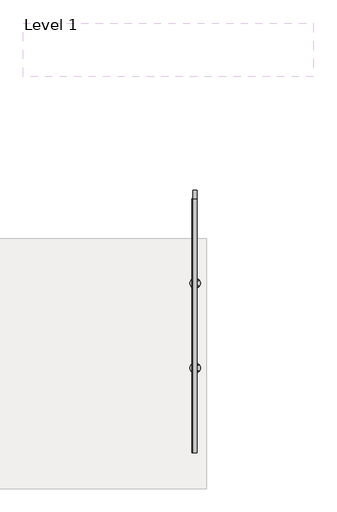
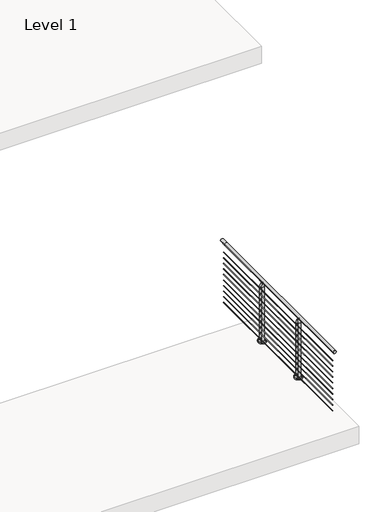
# One storey, part 8 of 26: 1 railing.
"""IFC4 building model written with IfcOpenShell, lengths in millimetres."""

from ifc_helpers import new_model, si_unit, point, frame, frame_2d, origin, origin_with_axes, place, context, project, spatial, polyline, circle_curve, trimmed, segment, composite_curve, outline, extrude, faceted_brep, element, save
from ifc_brep_helpers import plane_surface, cylinder_surface, advanced_brep

model = new_model("IFC4")

# Units and contexts
model_context = context("Model", 3, world=origin())
ifc_project = project(units=[si_unit("LENGTHUNIT", "METRE", prefix="MILLI")], contexts=[model_context])

# Site, building, storey
site = spatial("IfcSite", under=ifc_project)
building = spatial("IfcBuilding", under=site)
storey = spatial("IfcBuildingStorey", under=building, Name="Level 1", Elevation=0.0)

# Railing
placement = place(None, origin())
element("IfcRailing", 1, ObjectType="VIVA-CUBE-Multiline-Cable-Core Mount-Straight", at=placement, inside=storey, context=model_context, shape_type="SolidModel", body=[
    advanced_brep(
    [(69909.4592968, -70203.1943064, 1054.1), (69858.6592968, -70203.1943064, 1054.1), (69858.6592968, -70304.7943064, 1054.1), (69909.4592968, -70304.7943064, 1054.1), (69909.4592968, -73352.7943064, 1054.1), (69858.6592968, -73352.7943064, 1054.1)],
    [
        (0, 1, circle_curve(frame((69884.0592968, -70203.1943064, 1054.1), z_axis=(0.0, 1.0, 0.0), x_axis=(-1.0, 0.0, 0.0)), 25.4)),
        (1, 0, circle_curve(frame((69884.0592968, -70203.1943064, 1054.1), z_axis=(0.0, 1.0, 0.0), x_axis=(-1.0, 0.0, 0.0)), 25.4)),
        (2, 3, circle_curve(frame((69884.0592968, -70304.7943064, 1054.1), z_axis=(0.0, 1.0, 0.0), x_axis=(-1.0, 0.0, 0.0)), 25.4)),
        (3, 0),
        (1, 2),
        (3, 2, circle_curve(frame((69884.0592968, -70304.7943064, 1054.1), z_axis=(0.0, 1.0, 0.0), x_axis=(-1.0, 0.0, 0.0)), 25.4)),
        (4, 5, circle_curve(frame((69884.0592968, -73352.7943064, 1054.1), z_axis=(0.0, -1.0, 0.0), x_axis=(-1.0, 0.0, 0.0)), 25.4)),
        (5, 4, circle_curve(frame((69884.0592968, -73352.7943064, 1054.1), z_axis=(0.0, -1.0, 0.0), x_axis=(-1.0, 0.0, 0.0)), 25.4)),
        (4, 3),
        (2, 5),
    ],
    [
        plane_surface(frame((69884.0592968, -70203.1943064, 1079.5), z_axis=(0.0, 1.0, 0.0), x_axis=(0.0, 0.0, 1.0))),
        cylinder_surface(frame((69884.0592968, -70304.7943064, 1054.1), z_axis=(0.0, -1.0, 0.0), x_axis=(-1.0, 0.0, 0.0)), 25.4),
        plane_surface(frame((69884.0592968, -73352.7943064, 1079.5), z_axis=(0.0, -1.0, 0.0), x_axis=(0.0, 0.0, 1.0))),
        cylinder_surface(frame((69884.0592968, -73352.7943064, 1054.1), z_axis=(0.0, -1.0, 0.0), x_axis=(-1.0, 0.0, 0.0)), 25.4),
    ],
    [
        (0, [[1, 2]]),
        (1, [[3, 4, -2, 5]]),
        (1, [[6, -5, -1, -4]]),
        (2, [[7, 8]]),
        (3, [[-7, 9, -3, 10]]),
        (3, [[-8, -10, -6, -9]]),
    ],
),
    extrude(outline(composite_curve([segment(trimmed(circle_curve(frame_2d((922.1724, 69851.0392968)), 2.3876), [point((922.1724, 69848.6516968))], [point((922.1724, 69853.4268968))], False, "CARTESIAN"), True, "CONTINUOUS"), segment(trimmed(circle_curve(frame_2d((922.1724, 69851.0392968)), 2.3876), [point((922.1724, 69853.4268968))], [point((922.1724, 69848.6516968))], False, "CARTESIAN"), True, "CONTINUOUS")], self_intersect=False)), frame((0.0, -73352.7943064, 0.0), z_axis=(0.0, 1.0, 0.0), x_axis=(0.0, 0.0, 1.0)), (0.0, 0.0, 1.0), 3048.0),
    extrude(outline(composite_curve([segment(trimmed(circle_curve(frame_2d((824.3824, 69851.0392968)), 2.3876), [point((824.3824, 69848.6516968))], [point((824.3824, 69853.4268968))], False, "CARTESIAN"), True, "CONTINUOUS"), segment(trimmed(circle_curve(frame_2d((824.3824, 69851.0392968)), 2.3876), [point((824.3824, 69853.4268968))], [point((824.3824, 69848.6516968))], False, "CARTESIAN"), True, "CONTINUOUS")], self_intersect=False)), frame((0.0, -73352.7943064, 0.0), z_axis=(0.0, 1.0, 0.0), x_axis=(0.0, 0.0, 1.0)), (0.0, 0.0, 1.0), 3048.0),
    extrude(outline(composite_curve([segment(trimmed(circle_curve(frame_2d((729.1324, 69851.0392968)), 2.3876), [point((729.1324, 69848.6516968))], [point((729.1324, 69853.4268968))], False, "CARTESIAN"), True, "CONTINUOUS"), segment(trimmed(circle_curve(frame_2d((729.1324, 69851.0392968)), 2.3876), [point((729.1324, 69853.4268968))], [point((729.1324, 69848.6516968))], False, "CARTESIAN"), True, "CONTINUOUS")], self_intersect=False)), frame((0.0, -73352.7943064, 0.0), z_axis=(0.0, 1.0, 0.0), x_axis=(0.0, 0.0, 1.0)), (0.0, 0.0, 1.0), 3048.0),
    extrude(outline(composite_curve([segment(trimmed(circle_curve(frame_2d((636.4224, 69851.0392968)), 2.3876), [point((636.4224, 69848.6516968))], [point((636.4224, 69853.4268968))], False, "CARTESIAN"), True, "CONTINUOUS"), segment(trimmed(circle_curve(frame_2d((636.4224, 69851.0392968)), 2.3876), [point((636.4224, 69853.4268968))], [point((636.4224, 69848.6516968))], False, "CARTESIAN"), True, "CONTINUOUS")], self_intersect=False)), frame((0.0, -73352.7943064, 0.0), z_axis=(0.0, 1.0, 0.0), x_axis=(0.0, 0.0, 1.0)), (0.0, 0.0, 1.0), 3048.0),
    extrude(outline(composite_curve([segment(trimmed(circle_curve(frame_2d((539.9024, 69851.0392968)), 2.3876), [point((539.9024, 69848.6516968))], [point((539.9024, 69853.4268968))], False, "CARTESIAN"), True, "CONTINUOUS"), segment(trimmed(circle_curve(frame_2d((539.9024, 69851.0392968)), 2.3876), [point((539.9024, 69853.4268968))], [point((539.9024, 69848.6516968))], False, "CARTESIAN"), True, "CONTINUOUS")], self_intersect=False)), frame((0.0, -73352.7943064, 0.0), z_axis=(0.0, 1.0, 0.0), x_axis=(0.0, 0.0, 1.0)), (0.0, 0.0, 1.0), 3048.0),
    extrude(outline(composite_curve([segment(trimmed(circle_curve(frame_2d((442.1124, 69851.0392968)), 2.3876), [point((442.1124, 69848.6516968))], [point((442.1124, 69853.4268968))], False, "CARTESIAN"), True, "CONTINUOUS"), segment(trimmed(circle_curve(frame_2d((442.1124, 69851.0392968)), 2.3876), [point((442.1124, 69853.4268968))], [point((442.1124, 69848.6516968))], False, "CARTESIAN"), True, "CONTINUOUS")], self_intersect=False)), frame((0.0, -73352.7943064, 0.0), z_axis=(0.0, 1.0, 0.0), x_axis=(0.0, 0.0, 1.0)), (0.0, 0.0, 1.0), 3048.0),
    extrude(outline(composite_curve([segment(trimmed(circle_curve(frame_2d((349.4024, 69851.0392968)), 2.3876), [point((349.4024, 69848.6516968))], [point((349.4024, 69853.4268968))], False, "CARTESIAN"), True, "CONTINUOUS"), segment(trimmed(circle_curve(frame_2d((349.4024, 69851.0392968)), 2.3876), [point((349.4024, 69853.4268968))], [point((349.4024, 69848.6516968))], False, "CARTESIAN"), True, "CONTINUOUS")], self_intersect=False)), frame((0.0, -73352.7943064, 0.0), z_axis=(0.0, 1.0, 0.0), x_axis=(0.0, 0.0, 1.0)), (0.0, 0.0, 1.0), 3048.0),
    extrude(outline(composite_curve([segment(trimmed(circle_curve(frame_2d((254.1524, 69851.0392968)), 2.3876), [point((254.1524, 69848.6516968))], [point((254.1524, 69853.4268968))], False, "CARTESIAN"), True, "CONTINUOUS"), segment(trimmed(circle_curve(frame_2d((254.1524, 69851.0392968)), 2.3876), [point((254.1524, 69853.4268968))], [point((254.1524, 69848.6516968))], False, "CARTESIAN"), True, "CONTINUOUS")], self_intersect=False)), frame((0.0, -73352.7943064, 0.0), z_axis=(0.0, 1.0, 0.0), x_axis=(0.0, 0.0, 1.0)), (0.0, 0.0, 1.0), 3048.0),
    extrude(outline(composite_curve([segment(trimmed(circle_curve(frame_2d((158.9024, 69851.0392968)), 2.3876), [point((158.9024, 69848.6516968))], [point((158.9024, 69853.4268968))], False, "CARTESIAN"), True, "CONTINUOUS"), segment(trimmed(circle_curve(frame_2d((158.9024, 69851.0392968)), 2.3876), [point((158.9024, 69853.4268968))], [point((158.9024, 69848.6516968))], False, "CARTESIAN"), True, "CONTINUOUS")], self_intersect=False)), frame((0.0, -73352.7943064, 0.0), z_axis=(0.0, 1.0, 0.0), x_axis=(0.0, 0.0, 1.0)), (0.0, 0.0, 1.0), 3048.0),
    extrude(outline(composite_curve([segment(trimmed(circle_curve(frame_2d((63.6524, 69851.0392968)), 2.3876), [point((63.6524, 69848.6516968))], [point((63.6524, 69853.4268968))], False, "CARTESIAN"), True, "CONTINUOUS"), segment(trimmed(circle_curve(frame_2d((63.6524, 69851.0392968)), 2.3876), [point((63.6524, 69853.4268968))], [point((63.6524, 69848.6516968))], False, "CARTESIAN"), True, "CONTINUOUS")], self_intersect=False)), frame((0.0, -73352.7943064, 0.0), z_axis=(0.0, 1.0, 0.0), x_axis=(0.0, 0.0, 1.0)), (0.0, 0.0, 1.0), 3048.0),
    advanced_brep(
    [(69853.3161225, -71307.3340985, 63.5), (69853.3161225, -71332.6670144, 63.5), (69853.3161225, -71320.0005564, 63.5), (69858.6501225, -71307.3340985, 63.5), (69858.6501225, -71332.6670144, 63.5), (69858.6501225, -71320.0005564, 63.5)],
    [
        (0, 1, circle_curve(frame((69853.3161225, -71320.0005564, 63.5), z_axis=(-1.0, 0.0, 0.0), x_axis=(0.0, -1.0, 0.0)), 12.666458)),
        (1, 2),
        (2, 0),
        (1, 0, circle_curve(frame((69853.3161225, -71320.0005564, 63.5), z_axis=(-1.0, 0.0, 0.0), x_axis=(0.0, -1.0, 0.0)), 12.666458)),
        (3, 4, circle_curve(frame((69858.6501225, -71320.0005564, 63.5), z_axis=(-1.0, 0.0, 0.0), x_axis=(0.0, -1.0, 0.0)), 12.666458)),
        (4, 1),
        (0, 3),
        (4, 3, circle_curve(frame((69858.6501225, -71320.0005564, 63.5), z_axis=(-1.0, 0.0, 0.0), x_axis=(0.0, -1.0, 0.0)), 12.666458)),
        (5, 4),
        (3, 5),
    ],
    [
        plane_surface(frame((69853.3161225, -71320.0005564, 63.5), z_axis=(-1.0, 0.0, 0.0), x_axis=(0.0, -1.0, 0.0))),
        cylinder_surface(frame((69985.6592968, -71320.0005564, 63.5), z_axis=(1.0, 0.0, 0.0), x_axis=(0.0, -1.0, 0.0)), 12.666458),
        plane_surface(frame((69858.6501225, -71320.0005564, 63.5), z_axis=(1.0, 0.0, 0.0), x_axis=(0.0, -1.0, 0.0))),
    ],
    [
        (0, [[1, 2, 3]]),
        (0, [[4, -3, -2]]),
        (1, [[5, 6, -1, 7]]),
        (1, [[8, -7, -4, -6]]),
        (2, [[9, -5, 10]]),
        (2, [[-10, -8, -9]]),
    ],
),
    advanced_brep(
    [(69853.3161225, -71307.3340985, 158.75), (69853.3161225, -71332.6670144, 158.75), (69853.3161225, -71320.0005564, 158.75), (69858.6501225, -71307.3340985, 158.75), (69858.6501225, -71332.6670144, 158.75), (69858.6501225, -71320.0005564, 158.75)],
    [
        (0, 1, circle_curve(frame((69853.3161225, -71320.0005564, 158.75), z_axis=(-1.0, 0.0, 0.0), x_axis=(0.0, -1.0, 0.0)), 12.666458)),
        (1, 2),
        (2, 0),
        (1, 0, circle_curve(frame((69853.3161225, -71320.0005564, 158.75), z_axis=(-1.0, 0.0, 0.0), x_axis=(0.0, -1.0, 0.0)), 12.666458)),
        (3, 4, circle_curve(frame((69858.6501225, -71320.0005564, 158.75), z_axis=(-1.0, 0.0, 0.0), x_axis=(0.0, -1.0, 0.0)), 12.666458)),
        (4, 1),
        (0, 3),
        (4, 3, circle_curve(frame((69858.6501225, -71320.0005564, 158.75), z_axis=(-1.0, 0.0, 0.0), x_axis=(0.0, -1.0, 0.0)), 12.666458)),
        (5, 4),
        (3, 5),
    ],
    [
        plane_surface(frame((69853.3161225, -71320.0005564, 158.75), z_axis=(-1.0, 0.0, 0.0), x_axis=(0.0, -1.0, 0.0))),
        cylinder_surface(frame((69985.6592968, -71320.0005564, 158.75), z_axis=(1.0, 0.0, 0.0), x_axis=(0.0, -1.0, 0.0)), 12.666458),
        plane_surface(frame((69858.6501225, -71320.0005564, 158.75), z_axis=(1.0, 0.0, 0.0), x_axis=(0.0, -1.0, 0.0))),
    ],
    [
        (0, [[1, 2, 3]]),
        (0, [[4, -3, -2]]),
        (1, [[5, 6, -1, 7]]),
        (1, [[8, -7, -4, -6]]),
        (2, [[9, -5, 10]]),
        (2, [[-10, -8, -9]]),
    ],
),
    advanced_brep(
    [(69853.3161225, -71307.3340985, 254.0), (69853.3161225, -71332.6670144, 254.0), (69853.3161225, -71320.0005564, 254.0), (69858.6501225, -71307.3340985, 254.0), (69858.6501225, -71332.6670144, 254.0), (69858.6501225, -71320.0005564, 254.0)],
    [
        (0, 1, circle_curve(frame((69853.3161225, -71320.0005564, 254.0), z_axis=(-1.0, 0.0, 0.0), x_axis=(0.0, -1.0, 0.0)), 12.666458)),
        (1, 2),
        (2, 0),
        (1, 0, circle_curve(frame((69853.3161225, -71320.0005564, 254.0), z_axis=(-1.0, 0.0, 0.0), x_axis=(0.0, -1.0, 0.0)), 12.666458)),
        (3, 4, circle_curve(frame((69858.6501225, -71320.0005564, 254.0), z_axis=(-1.0, 0.0, 0.0), x_axis=(0.0, -1.0, 0.0)), 12.666458)),
        (4, 1),
        (0, 3),
        (4, 3, circle_curve(frame((69858.6501225, -71320.0005564, 254.0), z_axis=(-1.0, 0.0, 0.0), x_axis=(0.0, -1.0, 0.0)), 12.666458)),
        (5, 4),
        (3, 5),
    ],
    [
        plane_surface(frame((69853.3161225, -71320.0005564, 254.0), z_axis=(-1.0, 0.0, 0.0), x_axis=(0.0, -1.0, 0.0))),
        cylinder_surface(frame((69985.6592968, -71320.0005564, 254.0), z_axis=(1.0, 0.0, 0.0), x_axis=(0.0, -1.0, 0.0)), 12.666458),
        plane_surface(frame((69858.6501225, -71320.0005564, 254.0), z_axis=(1.0, 0.0, 0.0), x_axis=(0.0, -1.0, 0.0))),
    ],
    [
        (0, [[1, 2, 3]]),
        (0, [[4, -3, -2]]),
        (1, [[5, 6, -1, 7]]),
        (1, [[8, -7, -4, -6]]),
        (2, [[9, -5, 10]]),
        (2, [[-10, -8, -9]]),
    ],
),
    advanced_brep(
    [(69853.3161225, -71307.3340985, 349.25), (69853.3161225, -71332.6670144, 349.25), (69853.3161225, -71320.0005564, 349.25), (69858.6501225, -71307.3340985, 349.25), (69858.6501225, -71332.6670144, 349.25), (69858.6501225, -71320.0005564, 349.25)],
    [
        (0, 1, circle_curve(frame((69853.3161225, -71320.0005564, 349.25), z_axis=(-1.0, 0.0, 0.0), x_axis=(0.0, -1.0, 0.0)), 12.666458)),
        (1, 2),
        (2, 0),
        (1, 0, circle_curve(frame((69853.3161225, -71320.0005564, 349.25), z_axis=(-1.0, 0.0, 0.0), x_axis=(0.0, -1.0, 0.0)), 12.666458)),
        (3, 4, circle_curve(frame((69858.6501225, -71320.0005564, 349.25), z_axis=(-1.0, 0.0, 0.0), x_axis=(0.0, -1.0, 0.0)), 12.666458)),
        (4, 1),
        (0, 3),
        (4, 3, circle_curve(frame((69858.6501225, -71320.0005564, 349.25), z_axis=(-1.0, 0.0, 0.0), x_axis=(0.0, -1.0, 0.0)), 12.666458)),
        (5, 4),
        (3, 5),
    ],
    [
        plane_surface(frame((69853.3161225, -71320.0005564, 349.25), z_axis=(-1.0, 0.0, 0.0), x_axis=(0.0, -1.0, 0.0))),
        cylinder_surface(frame((69985.6592968, -71320.0005564, 349.25), z_axis=(1.0, 0.0, 0.0), x_axis=(0.0, -1.0, 0.0)), 12.666458),
        plane_surface(frame((69858.6501225, -71320.0005564, 349.25), z_axis=(1.0, 0.0, 0.0), x_axis=(0.0, -1.0, 0.0))),
    ],
    [
        (0, [[1, 2, 3]]),
        (0, [[4, -3, -2]]),
        (1, [[5, 6, -1, 7]]),
        (1, [[8, -7, -4, -6]]),
        (2, [[9, -5, 10]]),
        (2, [[-10, -8, -9]]),
    ],
),
    advanced_brep(
    [(69853.3161225, -71307.3340985, 444.5), (69853.3161225, -71332.6670144, 444.5), (69853.3161225, -71320.0005564, 444.5), (69858.6501225, -71307.3340985, 444.5), (69858.6501225, -71332.6670144, 444.5), (69858.6501225, -71320.0005564, 444.5)],
    [
        (0, 1, circle_curve(frame((69853.3161225, -71320.0005564, 444.5), z_axis=(-1.0, 0.0, 0.0), x_axis=(0.0, -1.0, 0.0)), 12.666458)),
        (1, 2),
        (2, 0),
        (1, 0, circle_curve(frame((69853.3161225, -71320.0005564, 444.5), z_axis=(-1.0, 0.0, 0.0), x_axis=(0.0, -1.0, 0.0)), 12.666458)),
        (3, 4, circle_curve(frame((69858.6501225, -71320.0005564, 444.5), z_axis=(-1.0, 0.0, 0.0), x_axis=(0.0, -1.0, 0.0)), 12.666458)),
        (4, 1),
        (0, 3),
        (4, 3, circle_curve(frame((69858.6501225, -71320.0005564, 444.5), z_axis=(-1.0, 0.0, 0.0), x_axis=(0.0, -1.0, 0.0)), 12.666458)),
        (5, 4),
        (3, 5),
    ],
    [
        plane_surface(frame((69853.3161225, -71320.0005564, 444.5), z_axis=(-1.0, 0.0, 0.0), x_axis=(0.0, -1.0, 0.0))),
        cylinder_surface(frame((69985.6592968, -71320.0005564, 444.5), z_axis=(1.0, 0.0, 0.0), x_axis=(0.0, -1.0, 0.0)), 12.666458),
        plane_surface(frame((69858.6501225, -71320.0005564, 444.5), z_axis=(1.0, 0.0, 0.0), x_axis=(0.0, -1.0, 0.0))),
    ],
    [
        (0, [[1, 2, 3]]),
        (0, [[4, -3, -2]]),
        (1, [[5, 6, -1, 7]]),
        (1, [[8, -7, -4, -6]]),
        (2, [[9, -5, 10]]),
        (2, [[-10, -8, -9]]),
    ],
),
    advanced_brep(
    [(69853.3161225, -71307.3340985, 539.75), (69853.3161225, -71332.6670144, 539.75), (69853.3161225, -71320.0005564, 539.75), (69858.6501225, -71307.3340985, 539.75), (69858.6501225, -71332.6670144, 539.75), (69858.6501225, -71320.0005564, 539.75)],
    [
        (0, 1, circle_curve(frame((69853.3161225, -71320.0005564, 539.75), z_axis=(-1.0, 0.0, 0.0), x_axis=(0.0, -1.0, 0.0)), 12.666458)),
        (1, 2),
        (2, 0),
        (1, 0, circle_curve(frame((69853.3161225, -71320.0005564, 539.75), z_axis=(-1.0, 0.0, 0.0), x_axis=(0.0, -1.0, 0.0)), 12.666458)),
        (3, 4, circle_curve(frame((69858.6501225, -71320.0005564, 539.75), z_axis=(-1.0, 0.0, 0.0), x_axis=(0.0, -1.0, 0.0)), 12.666458)),
        (4, 1),
        (0, 3),
        (4, 3, circle_curve(frame((69858.6501225, -71320.0005564, 539.75), z_axis=(-1.0, 0.0, 0.0), x_axis=(0.0, -1.0, 0.0)), 12.666458)),
        (5, 4),
        (3, 5),
    ],
    [
        plane_surface(frame((69853.3161225, -71320.0005564, 539.75), z_axis=(-1.0, 0.0, 0.0), x_axis=(0.0, -1.0, 0.0))),
        cylinder_surface(frame((69985.6592968, -71320.0005564, 539.75), z_axis=(1.0, 0.0, 0.0), x_axis=(0.0, -1.0, 0.0)), 12.666458),
        plane_surface(frame((69858.6501225, -71320.0005564, 539.75), z_axis=(1.0, 0.0, 0.0), x_axis=(0.0, -1.0, 0.0))),
    ],
    [
        (0, [[1, 2, 3]]),
        (0, [[4, -3, -2]]),
        (1, [[5, 6, -1, 7]]),
        (1, [[8, -7, -4, -6]]),
        (2, [[9, -5, 10]]),
        (2, [[-10, -8, -9]]),
    ],
),
    advanced_brep(
    [(69853.3161225, -71307.3340985, 635.0), (69853.3161225, -71332.6670144, 635.0), (69853.3161225, -71320.0005564, 635.0), (69858.6501225, -71307.3340985, 635.0), (69858.6501225, -71332.6670144, 635.0), (69858.6501225, -71320.0005564, 635.0)],
    [
        (0, 1, circle_curve(frame((69853.3161225, -71320.0005564, 635.0), z_axis=(-1.0, 0.0, 0.0), x_axis=(0.0, -1.0, 0.0)), 12.666458)),
        (1, 2),
        (2, 0),
        (1, 0, circle_curve(frame((69853.3161225, -71320.0005564, 635.0), z_axis=(-1.0, 0.0, 0.0), x_axis=(0.0, -1.0, 0.0)), 12.666458)),
        (3, 4, circle_curve(frame((69858.6501225, -71320.0005564, 635.0), z_axis=(-1.0, 0.0, 0.0), x_axis=(0.0, -1.0, 0.0)), 12.666458)),
        (4, 1),
        (0, 3),
        (4, 3, circle_curve(frame((69858.6501225, -71320.0005564, 635.0), z_axis=(-1.0, 0.0, 0.0), x_axis=(0.0, -1.0, 0.0)), 12.666458)),
        (5, 4),
        (3, 5),
    ],
    [
        plane_surface(frame((69853.3161225, -71320.0005564, 635.0), z_axis=(-1.0, 0.0, 0.0), x_axis=(0.0, -1.0, 0.0))),
        cylinder_surface(frame((69985.6592968, -71320.0005564, 635.0), z_axis=(1.0, 0.0, 0.0), x_axis=(0.0, -1.0, 0.0)), 12.666458),
        plane_surface(frame((69858.6501225, -71320.0005564, 635.0), z_axis=(1.0, 0.0, 0.0), x_axis=(0.0, -1.0, 0.0))),
    ],
    [
        (0, [[1, 2, 3]]),
        (0, [[4, -3, -2]]),
        (1, [[5, 6, -1, 7]]),
        (1, [[8, -7, -4, -6]]),
        (2, [[9, -5, 10]]),
        (2, [[-10, -8, -9]]),
    ],
),
    advanced_brep(
    [(69853.3161225, -71307.3340985, 730.25), (69853.3161225, -71332.6670144, 730.25), (69853.3161225, -71320.0005564, 730.25), (69858.6501225, -71307.3340985, 730.25), (69858.6501225, -71332.6670144, 730.25), (69858.6501225, -71320.0005564, 730.25)],
    [
        (0, 1, circle_curve(frame((69853.3161225, -71320.0005564, 730.25), z_axis=(-1.0, 0.0, 0.0), x_axis=(0.0, -1.0, 0.0)), 12.666458)),
        (1, 2),
        (2, 0),
        (1, 0, circle_curve(frame((69853.3161225, -71320.0005564, 730.25), z_axis=(-1.0, 0.0, 0.0), x_axis=(0.0, -1.0, 0.0)), 12.666458)),
        (3, 4, circle_curve(frame((69858.6501225, -71320.0005564, 730.25), z_axis=(-1.0, 0.0, 0.0), x_axis=(0.0, -1.0, 0.0)), 12.666458)),
        (4, 1),
        (0, 3),
        (4, 3, circle_curve(frame((69858.6501225, -71320.0005564, 730.25), z_axis=(-1.0, 0.0, 0.0), x_axis=(0.0, -1.0, 0.0)), 12.666458)),
        (5, 4),
        (3, 5),
    ],
    [
        plane_surface(frame((69853.3161225, -71320.0005564, 730.25), z_axis=(-1.0, 0.0, 0.0), x_axis=(0.0, -1.0, 0.0))),
        cylinder_surface(frame((69985.6592968, -71320.0005564, 730.25), z_axis=(1.0, 0.0, 0.0), x_axis=(0.0, -1.0, 0.0)), 12.666458),
        plane_surface(frame((69858.6501225, -71320.0005564, 730.25), z_axis=(1.0, 0.0, 0.0), x_axis=(0.0, -1.0, 0.0))),
    ],
    [
        (0, [[1, 2, 3]]),
        (0, [[4, -3, -2]]),
        (1, [[5, 6, -1, 7]]),
        (1, [[8, -7, -4, -6]]),
        (2, [[9, -5, 10]]),
        (2, [[-10, -8, -9]]),
    ],
),
    advanced_brep(
    [(69853.3161225, -71307.3340985, 825.5), (69853.3161225, -71332.6670144, 825.5), (69853.3161225, -71320.0005564, 825.5), (69858.6501225, -71307.3340985, 825.5), (69858.6501225, -71332.6670144, 825.5), (69858.6501225, -71320.0005564, 825.5)],
    [
        (0, 1, circle_curve(frame((69853.3161225, -71320.0005564, 825.5), z_axis=(-1.0, 0.0, 0.0), x_axis=(0.0, -1.0, 0.0)), 12.666458)),
        (1, 2),
        (2, 0),
        (1, 0, circle_curve(frame((69853.3161225, -71320.0005564, 825.5), z_axis=(-1.0, 0.0, 0.0), x_axis=(0.0, -1.0, 0.0)), 12.666458)),
        (3, 4, circle_curve(frame((69858.6501225, -71320.0005564, 825.5), z_axis=(-1.0, 0.0, 0.0), x_axis=(0.0, -1.0, 0.0)), 12.666458)),
        (4, 1),
        (0, 3),
        (4, 3, circle_curve(frame((69858.6501225, -71320.0005564, 825.5), z_axis=(-1.0, 0.0, 0.0), x_axis=(0.0, -1.0, 0.0)), 12.666458)),
        (5, 4),
        (3, 5),
    ],
    [
        plane_surface(frame((69853.3161225, -71320.0005564, 825.5), z_axis=(-1.0, 0.0, 0.0), x_axis=(0.0, -1.0, 0.0))),
        cylinder_surface(frame((69985.6592968, -71320.0005564, 825.5), z_axis=(1.0, 0.0, 0.0), x_axis=(0.0, -1.0, 0.0)), 12.666458),
        plane_surface(frame((69858.6501225, -71320.0005564, 825.5), z_axis=(1.0, 0.0, 0.0), x_axis=(0.0, -1.0, 0.0))),
    ],
    [
        (0, [[1, 2, 3]]),
        (0, [[4, -3, -2]]),
        (1, [[5, 6, -1, 7]]),
        (1, [[8, -7, -4, -6]]),
        (2, [[9, -5, 10]]),
        (2, [[-10, -8, -9]]),
    ],
),
    advanced_brep(
    [(69853.3161225, -71307.3340985, 920.75), (69853.3161225, -71332.6670144, 920.75), (69853.3161225, -71320.0005564, 920.75), (69858.6501225, -71307.3340985, 920.75), (69858.6501225, -71332.6670144, 920.75), (69858.6501225, -71320.0005564, 920.75)],
    [
        (0, 1, circle_curve(frame((69853.3161225, -71320.0005564, 920.75), z_axis=(-1.0, 0.0, 0.0), x_axis=(0.0, -1.0, 0.0)), 12.666458)),
        (1, 2),
        (2, 0),
        (1, 0, circle_curve(frame((69853.3161225, -71320.0005564, 920.75), z_axis=(-1.0, 0.0, 0.0), x_axis=(0.0, -1.0, 0.0)), 12.666458)),
        (3, 4, circle_curve(frame((69858.6501225, -71320.0005564, 920.75), z_axis=(-1.0, 0.0, 0.0), x_axis=(0.0, -1.0, 0.0)), 12.666458)),
        (4, 1),
        (0, 3),
        (4, 3, circle_curve(frame((69858.6501225, -71320.0005564, 920.75), z_axis=(-1.0, 0.0, 0.0), x_axis=(0.0, -1.0, 0.0)), 12.666458)),
        (5, 4),
        (3, 5),
    ],
    [
        plane_surface(frame((69853.3161225, -71320.0005564, 920.75), z_axis=(-1.0, 0.0, 0.0), x_axis=(0.0, -1.0, 0.0))),
        cylinder_surface(frame((69985.6592968, -71320.0005564, 920.75), z_axis=(1.0, 0.0, 0.0), x_axis=(0.0, -1.0, 0.0)), 12.666458),
        plane_surface(frame((69858.6501225, -71320.0005564, 920.75), z_axis=(1.0, 0.0, 0.0), x_axis=(0.0, -1.0, 0.0))),
    ],
    [
        (0, [[1, 2, 3]]),
        (0, [[4, -3, -2]]),
        (1, [[5, 6, -1, 7]]),
        (1, [[8, -7, -4, -6]]),
        (2, [[9, -5, 10]]),
        (2, [[-10, -8, -9]]),
    ],
),
    extrude(outline(composite_curve([segment(trimmed(circle_curve(frame_2d((69884.0592968, -71320.3974314)), 63.5), [point((69947.5592968, -71320.3974314))], [point((69820.5592968, -71320.3974314))], False, "CARTESIAN"), True, "CONTINUOUS"), segment(trimmed(circle_curve(frame_2d((69884.0592968, -71320.3974314)), 63.5), [point((69820.5592968, -71320.3974314))], [point((69947.5592968, -71320.3974314))], False, "CARTESIAN"), True, "CONTINUOUS")], self_intersect=False), holes=[composite_curve([segment(trimmed(circle_curve(frame_2d((69919.5290406, -71355.8671753)), 4.7625), [point((69924.2915406, -71355.8671753))], [point((69914.7665406, -71355.8671753))], True, "CARTESIAN"), True, "CONTINUOUS"), segment(trimmed(circle_curve(frame_2d((69919.5290406, -71355.8671753)), 4.7625), [point((69914.7665406, -71355.8671753))], [point((69924.2915406, -71355.8671753))], True, "CARTESIAN"), True, "CONTINUOUS")], self_intersect=False), composite_curve([segment(trimmed(circle_curve(frame_2d((69848.5895529, -71355.8671753)), 4.7625), [point((69853.3520529, -71355.8671753))], [point((69843.8270529, -71355.8671753))], True, "CARTESIAN"), True, "CONTINUOUS"), segment(trimmed(circle_curve(frame_2d((69848.5895529, -71355.8671753)), 4.7625), [point((69843.8270529, -71355.8671753))], [point((69853.3520529, -71355.8671753))], True, "CARTESIAN"), True, "CONTINUOUS")], self_intersect=False), composite_curve([segment(trimmed(circle_curve(frame_2d((69919.5290406, -71284.9276875)), 4.7625), [point((69924.2915406, -71284.9276875))], [point((69914.7665406, -71284.9276875))], True, "CARTESIAN"), True, "CONTINUOUS"), segment(trimmed(circle_curve(frame_2d((69919.5290406, -71284.9276875)), 4.7625), [point((69914.7665406, -71284.9276875))], [point((69924.2915406, -71284.9276875))], True, "CARTESIAN"), True, "CONTINUOUS")], self_intersect=False), composite_curve([segment(trimmed(circle_curve(frame_2d((69848.5895529, -71284.9276875)), 4.7625), [point((69853.3520529, -71284.9276875))], [point((69843.8270529, -71284.9276875))], True, "CARTESIAN"), True, "CONTINUOUS"), segment(trimmed(circle_curve(frame_2d((69848.5895529, -71284.9276875)), 4.7625), [point((69843.8270529, -71284.9276875))], [point((69853.3520529, -71284.9276875))], True, "CARTESIAN"), True, "CONTINUOUS")], self_intersect=False)]), origin_with_axes(), (0.0, 0.0, 1.0), 25.4),
    faceted_brep([(69871.3592968, -71307.6974314, 997.2902749), (69871.3592968, -71333.0974314, 997.2902749), (69880.0905468, -71333.0974314, 997.2902749), (69880.0905468, -71307.6974314, 997.2902749), (69896.7592968, -71333.0974314, 997.2902749), (69896.7592968, -71307.6974314, 997.2902749), (69888.0280468, -71307.6974314, 997.2902749), (69888.0280468, -71333.0974314, 997.2902749), (69858.6592968, -71294.9974314, 941.1347854), (69909.4592968, -71294.9974314, 941.1347854), (69858.6592968, -71345.7974314, 941.1347854), (69909.4592968, -71345.7974314, 941.1347854), (69858.6592968, -71294.9974314, -88.9), (69909.4592968, -71294.9974314, -88.9), (69909.4592968, -71345.7974314, -88.9), (69858.6592968, -71345.7974314, -88.9), (69888.0280468, -71333.0974314, 1009.3306013), (69888.0280468, -71307.6974314, 1009.3306013), (69880.0905468, -71307.6974314, 1009.3306013), (69880.0905468, -71333.0974314, 1009.3306013)], [[[0, 1, 2, 3]], [[4, 5, 6, 7]], [[8, 0, 3, 6, 5, 9]], [[1, 0, 8, 10]], [[1, 10, 11, 4, 7, 2]], [[5, 4, 11, 9]], [[12, 13, 14, 15]], [[12, 15, 10, 8]], [[15, 14, 11, 10]], [[14, 13, 9, 11]], [[13, 12, 8, 9]], [[16, 17, 18, 19]], [[17, 16, 7, 6]], [[18, 17, 6, 3]], [[19, 18, 3, 2]], [[16, 19, 2, 7]]]),
    extrude(outline(composite_curve([segment(trimmed(circle_curve(frame_2d((1054.1433184, 69883.9625684)), 25.4345159), [point((1032.0284941, 69896.5263713))], [point((1031.9335733, 69871.5673346))], True, "CARTESIAN"), True, "CONTINUOUS"), segment(trimmed(circle_curve(frame_2d((1029.4310885, 69870.3226815)), 2.7949225), [point((1031.9335733, 69871.5673346))], [point((1027.0585031, 69868.8453764))], False, "CARTESIAN"), True, "CONTINUOUS"), segment(trimmed(circle_curve(frame_2d((1054.905945, 69884.0960315)), 31.75), [point((1027.0585031, 69868.8453764))], [point((1027.6392616, 69900.3622687))], False, "CARTESIAN"), True, "CONTINUOUS"), segment(trimmed(circle_curve(frame_2d((1029.5101807, 69898.073929)), 2.9558141), [point((1027.6392616, 69900.3622687))], [point((1032.0284941, 69896.5263713))], False, "CARTESIAN"), True, "CONTINUOUS")], self_intersect=False)), frame((0.0, -71365.6348314, 0.0), z_axis=(0.0, 1.0, 0.0), x_axis=(0.0, 0.0, 1.0)), (0.0, 0.0, 1.0), 90.4748),
    extrude(outline(composite_curve([segment(trimmed(circle_curve(frame_2d((-71293.3295165, 1009.0006022)), 14.3679149), [point((-71293.3295165, 1023.3685171))], [point((-71307.6974314, 1009.0006022))], True, "CARTESIAN"), True, "CONTINUOUS"), segment(trimmed(circle_curve(frame_2d((-71320.3974314, 1009.0006022)), 12.7), [point((-71307.6974314, 1009.0006022))], [point((-71333.0974314, 1009.0006022))], False, "CARTESIAN"), True, "CONTINUOUS"), segment(trimmed(circle_curve(frame_2d((-71347.4653463, 1009.0006022)), 14.3679149), [point((-71333.0974314, 1009.0006022))], [point((-71347.4653463, 1023.3685171))], True, "CARTESIAN"), True, "CONTINUOUS"), segment(polyline([(-71347.4653463, 1023.3685171), (-71293.3295165, 1023.3685171)]), True, "CONTINUOUS")], self_intersect=False)), frame((69881.5192968, 0.0, 0.0), z_axis=(1.0, 0.0, 0.0), x_axis=(0.0, 1.0, 0.0)), (0.0, 0.0, 1.0), 5.08),
    advanced_brep(
    [(69853.3161225, -72323.3340985, 63.5), (69853.3161225, -72348.6670144, 63.5), (69853.3161225, -72336.0005564, 63.5), (69858.6501225, -72323.3340985, 63.5), (69858.6501225, -72348.6670144, 63.5), (69858.6501225, -72336.0005564, 63.5)],
    [
        (0, 1, circle_curve(frame((69853.3161225, -72336.0005564, 63.5), z_axis=(-1.0, 0.0, 0.0), x_axis=(0.0, -1.0, 0.0)), 12.666458)),
        (1, 2),
        (2, 0),
        (1, 0, circle_curve(frame((69853.3161225, -72336.0005564, 63.5), z_axis=(-1.0, 0.0, 0.0), x_axis=(0.0, -1.0, 0.0)), 12.666458)),
        (3, 4, circle_curve(frame((69858.6501225, -72336.0005564, 63.5), z_axis=(-1.0, 0.0, 0.0), x_axis=(0.0, -1.0, 0.0)), 12.666458)),
        (4, 1),
        (0, 3),
        (4, 3, circle_curve(frame((69858.6501225, -72336.0005564, 63.5), z_axis=(-1.0, 0.0, 0.0), x_axis=(0.0, -1.0, 0.0)), 12.666458)),
        (5, 4),
        (3, 5),
    ],
    [
        plane_surface(frame((69853.3161225, -72336.0005564, 63.5), z_axis=(-1.0, 0.0, 0.0), x_axis=(0.0, -1.0, 0.0))),
        cylinder_surface(frame((69985.6592968, -72336.0005564, 63.5), z_axis=(1.0, 0.0, 0.0), x_axis=(0.0, -1.0, 0.0)), 12.666458),
        plane_surface(frame((69858.6501225, -72336.0005564, 63.5), z_axis=(1.0, 0.0, 0.0), x_axis=(0.0, -1.0, 0.0))),
    ],
    [
        (0, [[1, 2, 3]]),
        (0, [[4, -3, -2]]),
        (1, [[5, 6, -1, 7]]),
        (1, [[8, -7, -4, -6]]),
        (2, [[9, -5, 10]]),
        (2, [[-10, -8, -9]]),
    ],
),
    advanced_brep(
    [(69853.3161225, -72323.3340985, 158.75), (69853.3161225, -72348.6670144, 158.75), (69853.3161225, -72336.0005564, 158.75), (69858.6501225, -72323.3340985, 158.75), (69858.6501225, -72348.6670144, 158.75), (69858.6501225, -72336.0005564, 158.75)],
    [
        (0, 1, circle_curve(frame((69853.3161225, -72336.0005564, 158.75), z_axis=(-1.0, 0.0, 0.0), x_axis=(0.0, -1.0, 0.0)), 12.666458)),
        (1, 2),
        (2, 0),
        (1, 0, circle_curve(frame((69853.3161225, -72336.0005564, 158.75), z_axis=(-1.0, 0.0, 0.0), x_axis=(0.0, -1.0, 0.0)), 12.666458)),
        (3, 4, circle_curve(frame((69858.6501225, -72336.0005564, 158.75), z_axis=(-1.0, 0.0, 0.0), x_axis=(0.0, -1.0, 0.0)), 12.666458)),
        (4, 1),
        (0, 3),
        (4, 3, circle_curve(frame((69858.6501225, -72336.0005564, 158.75), z_axis=(-1.0, 0.0, 0.0), x_axis=(0.0, -1.0, 0.0)), 12.666458)),
        (5, 4),
        (3, 5),
    ],
    [
        plane_surface(frame((69853.3161225, -72336.0005564, 158.75), z_axis=(-1.0, 0.0, 0.0), x_axis=(0.0, -1.0, 0.0))),
        cylinder_surface(frame((69985.6592968, -72336.0005564, 158.75), z_axis=(1.0, 0.0, 0.0), x_axis=(0.0, -1.0, 0.0)), 12.666458),
        plane_surface(frame((69858.6501225, -72336.0005564, 158.75), z_axis=(1.0, 0.0, 0.0), x_axis=(0.0, -1.0, 0.0))),
    ],
    [
        (0, [[1, 2, 3]]),
        (0, [[4, -3, -2]]),
        (1, [[5, 6, -1, 7]]),
        (1, [[8, -7, -4, -6]]),
        (2, [[9, -5, 10]]),
        (2, [[-10, -8, -9]]),
    ],
),
    advanced_brep(
    [(69853.3161225, -72323.3340985, 254.0), (69853.3161225, -72348.6670144, 254.0), (69853.3161225, -72336.0005564, 254.0), (69858.6501225, -72323.3340985, 254.0), (69858.6501225, -72348.6670144, 254.0), (69858.6501225, -72336.0005564, 254.0)],
    [
        (0, 1, circle_curve(frame((69853.3161225, -72336.0005564, 254.0), z_axis=(-1.0, 0.0, 0.0), x_axis=(0.0, -1.0, 0.0)), 12.666458)),
        (1, 2),
        (2, 0),
        (1, 0, circle_curve(frame((69853.3161225, -72336.0005564, 254.0), z_axis=(-1.0, 0.0, 0.0), x_axis=(0.0, -1.0, 0.0)), 12.666458)),
        (3, 4, circle_curve(frame((69858.6501225, -72336.0005564, 254.0), z_axis=(-1.0, 0.0, 0.0), x_axis=(0.0, -1.0, 0.0)), 12.666458)),
        (4, 1),
        (0, 3),
        (4, 3, circle_curve(frame((69858.6501225, -72336.0005564, 254.0), z_axis=(-1.0, 0.0, 0.0), x_axis=(0.0, -1.0, 0.0)), 12.666458)),
        (5, 4),
        (3, 5),
    ],
    [
        plane_surface(frame((69853.3161225, -72336.0005564, 254.0), z_axis=(-1.0, 0.0, 0.0), x_axis=(0.0, -1.0, 0.0))),
        cylinder_surface(frame((69985.6592968, -72336.0005564, 254.0), z_axis=(1.0, 0.0, 0.0), x_axis=(0.0, -1.0, 0.0)), 12.666458),
        plane_surface(frame((69858.6501225, -72336.0005564, 254.0), z_axis=(1.0, 0.0, 0.0), x_axis=(0.0, -1.0, 0.0))),
    ],
    [
        (0, [[1, 2, 3]]),
        (0, [[4, -3, -2]]),
        (1, [[5, 6, -1, 7]]),
        (1, [[8, -7, -4, -6]]),
        (2, [[9, -5, 10]]),
        (2, [[-10, -8, -9]]),
    ],
),
    advanced_brep(
    [(69853.3161225, -72323.3340985, 349.25), (69853.3161225, -72348.6670144, 349.25), (69853.3161225, -72336.0005564, 349.25), (69858.6501225, -72323.3340985, 349.25), (69858.6501225, -72348.6670144, 349.25), (69858.6501225, -72336.0005564, 349.25)],
    [
        (0, 1, circle_curve(frame((69853.3161225, -72336.0005564, 349.25), z_axis=(-1.0, 0.0, 0.0), x_axis=(0.0, -1.0, 0.0)), 12.666458)),
        (1, 2),
        (2, 0),
        (1, 0, circle_curve(frame((69853.3161225, -72336.0005564, 349.25), z_axis=(-1.0, 0.0, 0.0), x_axis=(0.0, -1.0, 0.0)), 12.666458)),
        (3, 4, circle_curve(frame((69858.6501225, -72336.0005564, 349.25), z_axis=(-1.0, 0.0, 0.0), x_axis=(0.0, -1.0, 0.0)), 12.666458)),
        (4, 1),
        (0, 3),
        (4, 3, circle_curve(frame((69858.6501225, -72336.0005564, 349.25), z_axis=(-1.0, 0.0, 0.0), x_axis=(0.0, -1.0, 0.0)), 12.666458)),
        (5, 4),
        (3, 5),
    ],
    [
        plane_surface(frame((69853.3161225, -72336.0005564, 349.25), z_axis=(-1.0, 0.0, 0.0), x_axis=(0.0, -1.0, 0.0))),
        cylinder_surface(frame((69985.6592968, -72336.0005564, 349.25), z_axis=(1.0, 0.0, 0.0), x_axis=(0.0, -1.0, 0.0)), 12.666458),
        plane_surface(frame((69858.6501225, -72336.0005564, 349.25), z_axis=(1.0, 0.0, 0.0), x_axis=(0.0, -1.0, 0.0))),
    ],
    [
        (0, [[1, 2, 3]]),
        (0, [[4, -3, -2]]),
        (1, [[5, 6, -1, 7]]),
        (1, [[8, -7, -4, -6]]),
        (2, [[9, -5, 10]]),
        (2, [[-10, -8, -9]]),
    ],
),
    advanced_brep(
    [(69853.3161225, -72323.3340985, 444.5), (69853.3161225, -72348.6670144, 444.5), (69853.3161225, -72336.0005564, 444.5), (69858.6501225, -72323.3340985, 444.5), (69858.6501225, -72348.6670144, 444.5), (69858.6501225, -72336.0005564, 444.5)],
    [
        (0, 1, circle_curve(frame((69853.3161225, -72336.0005564, 444.5), z_axis=(-1.0, 0.0, 0.0), x_axis=(0.0, -1.0, 0.0)), 12.666458)),
        (1, 2),
        (2, 0),
        (1, 0, circle_curve(frame((69853.3161225, -72336.0005564, 444.5), z_axis=(-1.0, 0.0, 0.0), x_axis=(0.0, -1.0, 0.0)), 12.666458)),
        (3, 4, circle_curve(frame((69858.6501225, -72336.0005564, 444.5), z_axis=(-1.0, 0.0, 0.0), x_axis=(0.0, -1.0, 0.0)), 12.666458)),
        (4, 1),
        (0, 3),
        (4, 3, circle_curve(frame((69858.6501225, -72336.0005564, 444.5), z_axis=(-1.0, 0.0, 0.0), x_axis=(0.0, -1.0, 0.0)), 12.666458)),
        (5, 4),
        (3, 5),
    ],
    [
        plane_surface(frame((69853.3161225, -72336.0005564, 444.5), z_axis=(-1.0, 0.0, 0.0), x_axis=(0.0, -1.0, 0.0))),
        cylinder_surface(frame((69985.6592968, -72336.0005564, 444.5), z_axis=(1.0, 0.0, 0.0), x_axis=(0.0, -1.0, 0.0)), 12.666458),
        plane_surface(frame((69858.6501225, -72336.0005564, 444.5), z_axis=(1.0, 0.0, 0.0), x_axis=(0.0, -1.0, 0.0))),
    ],
    [
        (0, [[1, 2, 3]]),
        (0, [[4, -3, -2]]),
        (1, [[5, 6, -1, 7]]),
        (1, [[8, -7, -4, -6]]),
        (2, [[9, -5, 10]]),
        (2, [[-10, -8, -9]]),
    ],
),
    advanced_brep(
    [(69853.3161225, -72323.3340985, 539.75), (69853.3161225, -72348.6670144, 539.75), (69853.3161225, -72336.0005564, 539.75), (69858.6501225, -72323.3340985, 539.75), (69858.6501225, -72348.6670144, 539.75), (69858.6501225, -72336.0005564, 539.75)],
    [
        (0, 1, circle_curve(frame((69853.3161225, -72336.0005564, 539.75), z_axis=(-1.0, 0.0, 0.0), x_axis=(0.0, -1.0, 0.0)), 12.666458)),
        (1, 2),
        (2, 0),
        (1, 0, circle_curve(frame((69853.3161225, -72336.0005564, 539.75), z_axis=(-1.0, 0.0, 0.0), x_axis=(0.0, -1.0, 0.0)), 12.666458)),
        (3, 4, circle_curve(frame((69858.6501225, -72336.0005564, 539.75), z_axis=(-1.0, 0.0, 0.0), x_axis=(0.0, -1.0, 0.0)), 12.666458)),
        (4, 1),
        (0, 3),
        (4, 3, circle_curve(frame((69858.6501225, -72336.0005564, 539.75), z_axis=(-1.0, 0.0, 0.0), x_axis=(0.0, -1.0, 0.0)), 12.666458)),
        (5, 4),
        (3, 5),
    ],
    [
        plane_surface(frame((69853.3161225, -72336.0005564, 539.75), z_axis=(-1.0, 0.0, 0.0), x_axis=(0.0, -1.0, 0.0))),
        cylinder_surface(frame((69985.6592968, -72336.0005564, 539.75), z_axis=(1.0, 0.0, 0.0), x_axis=(0.0, -1.0, 0.0)), 12.666458),
        plane_surface(frame((69858.6501225, -72336.0005564, 539.75), z_axis=(1.0, 0.0, 0.0), x_axis=(0.0, -1.0, 0.0))),
    ],
    [
        (0, [[1, 2, 3]]),
        (0, [[4, -3, -2]]),
        (1, [[5, 6, -1, 7]]),
        (1, [[8, -7, -4, -6]]),
        (2, [[9, -5, 10]]),
        (2, [[-10, -8, -9]]),
    ],
),
    advanced_brep(
    [(69853.3161225, -72323.3340985, 635.0), (69853.3161225, -72348.6670144, 635.0), (69853.3161225, -72336.0005564, 635.0), (69858.6501225, -72323.3340985, 635.0), (69858.6501225, -72348.6670144, 635.0), (69858.6501225, -72336.0005564, 635.0)],
    [
        (0, 1, circle_curve(frame((69853.3161225, -72336.0005564, 635.0), z_axis=(-1.0, 0.0, 0.0), x_axis=(0.0, -1.0, 0.0)), 12.666458)),
        (1, 2),
        (2, 0),
        (1, 0, circle_curve(frame((69853.3161225, -72336.0005564, 635.0), z_axis=(-1.0, 0.0, 0.0), x_axis=(0.0, -1.0, 0.0)), 12.666458)),
        (3, 4, circle_curve(frame((69858.6501225, -72336.0005564, 635.0), z_axis=(-1.0, 0.0, 0.0), x_axis=(0.0, -1.0, 0.0)), 12.666458)),
        (4, 1),
        (0, 3),
        (4, 3, circle_curve(frame((69858.6501225, -72336.0005564, 635.0), z_axis=(-1.0, 0.0, 0.0), x_axis=(0.0, -1.0, 0.0)), 12.666458)),
        (5, 4),
        (3, 5),
    ],
    [
        plane_surface(frame((69853.3161225, -72336.0005564, 635.0), z_axis=(-1.0, 0.0, 0.0), x_axis=(0.0, -1.0, 0.0))),
        cylinder_surface(frame((69985.6592968, -72336.0005564, 635.0), z_axis=(1.0, 0.0, 0.0), x_axis=(0.0, -1.0, 0.0)), 12.666458),
        plane_surface(frame((69858.6501225, -72336.0005564, 635.0), z_axis=(1.0, 0.0, 0.0), x_axis=(0.0, -1.0, 0.0))),
    ],
    [
        (0, [[1, 2, 3]]),
        (0, [[4, -3, -2]]),
        (1, [[5, 6, -1, 7]]),
        (1, [[8, -7, -4, -6]]),
        (2, [[9, -5, 10]]),
        (2, [[-10, -8, -9]]),
    ],
),
    advanced_brep(
    [(69853.3161225, -72323.3340985, 730.25), (69853.3161225, -72348.6670144, 730.25), (69853.3161225, -72336.0005564, 730.25), (69858.6501225, -72323.3340985, 730.25), (69858.6501225, -72348.6670144, 730.25), (69858.6501225, -72336.0005564, 730.25)],
    [
        (0, 1, circle_curve(frame((69853.3161225, -72336.0005564, 730.25), z_axis=(-1.0, 0.0, 0.0), x_axis=(0.0, -1.0, 0.0)), 12.666458)),
        (1, 2),
        (2, 0),
        (1, 0, circle_curve(frame((69853.3161225, -72336.0005564, 730.25), z_axis=(-1.0, 0.0, 0.0), x_axis=(0.0, -1.0, 0.0)), 12.666458)),
        (3, 4, circle_curve(frame((69858.6501225, -72336.0005564, 730.25), z_axis=(-1.0, 0.0, 0.0), x_axis=(0.0, -1.0, 0.0)), 12.666458)),
        (4, 1),
        (0, 3),
        (4, 3, circle_curve(frame((69858.6501225, -72336.0005564, 730.25), z_axis=(-1.0, 0.0, 0.0), x_axis=(0.0, -1.0, 0.0)), 12.666458)),
        (5, 4),
        (3, 5),
    ],
    [
        plane_surface(frame((69853.3161225, -72336.0005564, 730.25), z_axis=(-1.0, 0.0, 0.0), x_axis=(0.0, -1.0, 0.0))),
        cylinder_surface(frame((69985.6592968, -72336.0005564, 730.25), z_axis=(1.0, 0.0, 0.0), x_axis=(0.0, -1.0, 0.0)), 12.666458),
        plane_surface(frame((69858.6501225, -72336.0005564, 730.25), z_axis=(1.0, 0.0, 0.0), x_axis=(0.0, -1.0, 0.0))),
    ],
    [
        (0, [[1, 2, 3]]),
        (0, [[4, -3, -2]]),
        (1, [[5, 6, -1, 7]]),
        (1, [[8, -7, -4, -6]]),
        (2, [[9, -5, 10]]),
        (2, [[-10, -8, -9]]),
    ],
),
    advanced_brep(
    [(69853.3161225, -72323.3340985, 825.5), (69853.3161225, -72348.6670144, 825.5), (69853.3161225, -72336.0005564, 825.5), (69858.6501225, -72323.3340985, 825.5), (69858.6501225, -72348.6670144, 825.5), (69858.6501225, -72336.0005564, 825.5)],
    [
        (0, 1, circle_curve(frame((69853.3161225, -72336.0005564, 825.5), z_axis=(-1.0, 0.0, 0.0), x_axis=(0.0, -1.0, 0.0)), 12.666458)),
        (1, 2),
        (2, 0),
        (1, 0, circle_curve(frame((69853.3161225, -72336.0005564, 825.5), z_axis=(-1.0, 0.0, 0.0), x_axis=(0.0, -1.0, 0.0)), 12.666458)),
        (3, 4, circle_curve(frame((69858.6501225, -72336.0005564, 825.5), z_axis=(-1.0, 0.0, 0.0), x_axis=(0.0, -1.0, 0.0)), 12.666458)),
        (4, 1),
        (0, 3),
        (4, 3, circle_curve(frame((69858.6501225, -72336.0005564, 825.5), z_axis=(-1.0, 0.0, 0.0), x_axis=(0.0, -1.0, 0.0)), 12.666458)),
        (5, 4),
        (3, 5),
    ],
    [
        plane_surface(frame((69853.3161225, -72336.0005564, 825.5), z_axis=(-1.0, 0.0, 0.0), x_axis=(0.0, -1.0, 0.0))),
        cylinder_surface(frame((69985.6592968, -72336.0005564, 825.5), z_axis=(1.0, 0.0, 0.0), x_axis=(0.0, -1.0, 0.0)), 12.666458),
        plane_surface(frame((69858.6501225, -72336.0005564, 825.5), z_axis=(1.0, 0.0, 0.0), x_axis=(0.0, -1.0, 0.0))),
    ],
    [
        (0, [[1, 2, 3]]),
        (0, [[4, -3, -2]]),
        (1, [[5, 6, -1, 7]]),
        (1, [[8, -7, -4, -6]]),
        (2, [[9, -5, 10]]),
        (2, [[-10, -8, -9]]),
    ],
),
    advanced_brep(
    [(69853.3161225, -72323.3340985, 920.75), (69853.3161225, -72348.6670144, 920.75), (69853.3161225, -72336.0005564, 920.75), (69858.6501225, -72323.3340985, 920.75), (69858.6501225, -72348.6670144, 920.75), (69858.6501225, -72336.0005564, 920.75)],
    [
        (0, 1, circle_curve(frame((69853.3161225, -72336.0005564, 920.75), z_axis=(-1.0, 0.0, 0.0), x_axis=(0.0, -1.0, 0.0)), 12.666458)),
        (1, 2),
        (2, 0),
        (1, 0, circle_curve(frame((69853.3161225, -72336.0005564, 920.75), z_axis=(-1.0, 0.0, 0.0), x_axis=(0.0, -1.0, 0.0)), 12.666458)),
        (3, 4, circle_curve(frame((69858.6501225, -72336.0005564, 920.75), z_axis=(-1.0, 0.0, 0.0), x_axis=(0.0, -1.0, 0.0)), 12.666458)),
        (4, 1),
        (0, 3),
        (4, 3, circle_curve(frame((69858.6501225, -72336.0005564, 920.75), z_axis=(-1.0, 0.0, 0.0), x_axis=(0.0, -1.0, 0.0)), 12.666458)),
        (5, 4),
        (3, 5),
    ],
    [
        plane_surface(frame((69853.3161225, -72336.0005564, 920.75), z_axis=(-1.0, 0.0, 0.0), x_axis=(0.0, -1.0, 0.0))),
        cylinder_surface(frame((69985.6592968, -72336.0005564, 920.75), z_axis=(1.0, 0.0, 0.0), x_axis=(0.0, -1.0, 0.0)), 12.666458),
        plane_surface(frame((69858.6501225, -72336.0005564, 920.75), z_axis=(1.0, 0.0, 0.0), x_axis=(0.0, -1.0, 0.0))),
    ],
    [
        (0, [[1, 2, 3]]),
        (0, [[4, -3, -2]]),
        (1, [[5, 6, -1, 7]]),
        (1, [[8, -7, -4, -6]]),
        (2, [[9, -5, 10]]),
        (2, [[-10, -8, -9]]),
    ],
),
    extrude(outline(composite_curve([segment(trimmed(circle_curve(frame_2d((69884.0592968, -72336.3974314)), 63.5), [point((69947.5592968, -72336.3974314))], [point((69820.5592968, -72336.3974314))], False, "CARTESIAN"), True, "CONTINUOUS"), segment(trimmed(circle_curve(frame_2d((69884.0592968, -72336.3974314)), 63.5), [point((69820.5592968, -72336.3974314))], [point((69947.5592968, -72336.3974314))], False, "CARTESIAN"), True, "CONTINUOUS")], self_intersect=False), holes=[composite_curve([segment(trimmed(circle_curve(frame_2d((69919.5290406, -72371.8671753)), 4.7625), [point((69924.2915406, -72371.8671753))], [point((69914.7665406, -72371.8671753))], True, "CARTESIAN"), True, "CONTINUOUS"), segment(trimmed(circle_curve(frame_2d((69919.5290406, -72371.8671753)), 4.7625), [point((69914.7665406, -72371.8671753))], [point((69924.2915406, -72371.8671753))], True, "CARTESIAN"), True, "CONTINUOUS")], self_intersect=False), composite_curve([segment(trimmed(circle_curve(frame_2d((69848.5895529, -72371.8671753)), 4.7625), [point((69853.3520529, -72371.8671753))], [point((69843.8270529, -72371.8671753))], True, "CARTESIAN"), True, "CONTINUOUS"), segment(trimmed(circle_curve(frame_2d((69848.5895529, -72371.8671753)), 4.7625), [point((69843.8270529, -72371.8671753))], [point((69853.3520529, -72371.8671753))], True, "CARTESIAN"), True, "CONTINUOUS")], self_intersect=False), composite_curve([segment(trimmed(circle_curve(frame_2d((69919.5290406, -72300.9276875)), 4.7625), [point((69924.2915406, -72300.9276875))], [point((69914.7665406, -72300.9276875))], True, "CARTESIAN"), True, "CONTINUOUS"), segment(trimmed(circle_curve(frame_2d((69919.5290406, -72300.9276875)), 4.7625), [point((69914.7665406, -72300.9276875))], [point((69924.2915406, -72300.9276875))], True, "CARTESIAN"), True, "CONTINUOUS")], self_intersect=False), composite_curve([segment(trimmed(circle_curve(frame_2d((69848.5895529, -72300.9276875)), 4.7625), [point((69853.3520529, -72300.9276875))], [point((69843.8270529, -72300.9276875))], True, "CARTESIAN"), True, "CONTINUOUS"), segment(trimmed(circle_curve(frame_2d((69848.5895529, -72300.9276875)), 4.7625), [point((69843.8270529, -72300.9276875))], [point((69853.3520529, -72300.9276875))], True, "CARTESIAN"), True, "CONTINUOUS")], self_intersect=False)]), origin_with_axes(), (0.0, 0.0, 1.0), 25.4),
    faceted_brep([(69871.3592968, -72323.6974314, 997.2902749), (69871.3592968, -72349.0974314, 997.2902749), (69880.0905468, -72349.0974314, 997.2902749), (69880.0905468, -72323.6974314, 997.2902749), (69896.7592968, -72349.0974314, 997.2902749), (69896.7592968, -72323.6974314, 997.2902749), (69888.0280468, -72323.6974314, 997.2902749), (69888.0280468, -72349.0974314, 997.2902749), (69858.6592968, -72310.9974314, 941.1347854), (69909.4592968, -72310.9974314, 941.1347854), (69858.6592968, -72361.7974314, 941.1347854), (69909.4592968, -72361.7974314, 941.1347854), (69858.6592968, -72310.9974314, -88.9), (69909.4592968, -72310.9974314, -88.9), (69909.4592968, -72361.7974314, -88.9), (69858.6592968, -72361.7974314, -88.9), (69888.0280468, -72349.0974314, 1009.3306013), (69888.0280468, -72323.6974314, 1009.3306013), (69880.0905468, -72323.6974314, 1009.3306013), (69880.0905468, -72349.0974314, 1009.3306013)], [[[0, 1, 2, 3]], [[4, 5, 6, 7]], [[8, 0, 3, 6, 5, 9]], [[1, 0, 8, 10]], [[1, 10, 11, 4, 7, 2]], [[5, 4, 11, 9]], [[12, 13, 14, 15]], [[12, 15, 10, 8]], [[15, 14, 11, 10]], [[14, 13, 9, 11]], [[13, 12, 8, 9]], [[16, 17, 18, 19]], [[17, 16, 7, 6]], [[18, 17, 6, 3]], [[19, 18, 3, 2]], [[16, 19, 2, 7]]]),
    extrude(outline(composite_curve([segment(trimmed(circle_curve(frame_2d((1054.1433184, 69883.9625684)), 25.4345159), [point((1032.0284941, 69896.5263713))], [point((1031.9335733, 69871.5673346))], True, "CARTESIAN"), True, "CONTINUOUS"), segment(trimmed(circle_curve(frame_2d((1029.4310885, 69870.3226815)), 2.7949225), [point((1031.9335733, 69871.5673346))], [point((1027.0585031, 69868.8453764))], False, "CARTESIAN"), True, "CONTINUOUS"), segment(trimmed(circle_curve(frame_2d((1054.905945, 69884.0960315)), 31.75), [point((1027.0585031, 69868.8453764))], [point((1027.6392616, 69900.3622687))], False, "CARTESIAN"), True, "CONTINUOUS"), segment(trimmed(circle_curve(frame_2d((1029.5101807, 69898.073929)), 2.9558141), [point((1027.6392616, 69900.3622687))], [point((1032.0284941, 69896.5263713))], False, "CARTESIAN"), True, "CONTINUOUS")], self_intersect=False)), frame((0.0, -72381.6348314, 0.0), z_axis=(0.0, 1.0, 0.0), x_axis=(0.0, 0.0, 1.0)), (0.0, 0.0, 1.0), 90.4748),
    extrude(outline(composite_curve([segment(trimmed(circle_curve(frame_2d((-72309.3295165, 1009.0006022)), 14.3679149), [point((-72309.3295165, 1023.3685171))], [point((-72323.6974314, 1009.0006022))], True, "CARTESIAN"), True, "CONTINUOUS"), segment(trimmed(circle_curve(frame_2d((-72336.3974314, 1009.0006022)), 12.7), [point((-72323.6974314, 1009.0006022))], [point((-72349.0974314, 1009.0006022))], False, "CARTESIAN"), True, "CONTINUOUS"), segment(trimmed(circle_curve(frame_2d((-72363.4653463, 1009.0006022)), 14.3679149), [point((-72349.0974314, 1009.0006022))], [point((-72363.4653463, 1023.3685171))], True, "CARTESIAN"), True, "CONTINUOUS"), segment(polyline([(-72363.4653463, 1023.3685171), (-72309.3295165, 1023.3685171)]), True, "CONTINUOUS")], self_intersect=False)), frame((69881.5192968, 0.0, 0.0), z_axis=(1.0, 0.0, 0.0), x_axis=(0.0, 1.0, 0.0)), (0.0, 0.0, 1.0), 5.08),
])

save(model, "model.ifc")
